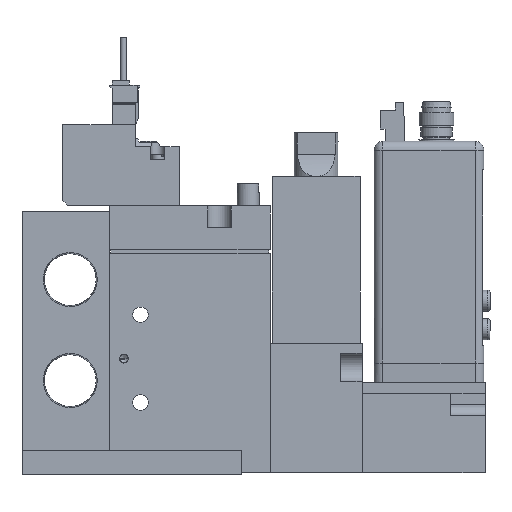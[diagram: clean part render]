
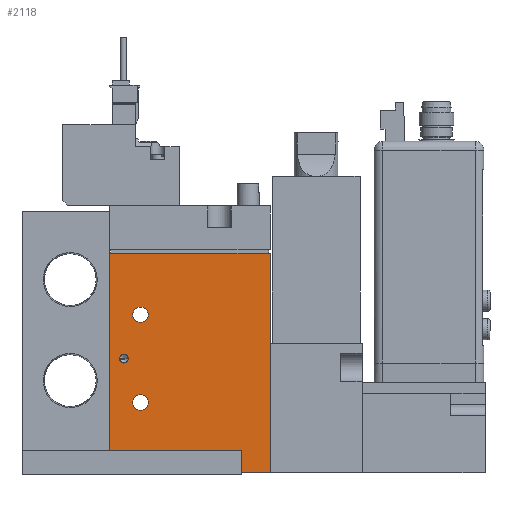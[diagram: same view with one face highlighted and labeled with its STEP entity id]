
A CAD part, left-side view. The second image highlights one B-rep face of the part: STEP entity #2118.
In plain terms, the highlighted planar face has unit normal (-1, 0, 0) as drawn and (1, 0, 0) by its records, which use the part's own axes.
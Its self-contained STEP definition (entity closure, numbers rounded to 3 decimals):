
#2118=ADVANCED_FACE('',(#4236,#4237,#4238,#4239),#4240,.F.);
#4236=FACE_BOUND('',#7803,.T.);
#4237=FACE_BOUND('',#7804,.T.);
#4238=FACE_BOUND('',#7805,.T.);
#4239=FACE_OUTER_BOUND('',#7806,.T.);
#4240=PLANE('',#7807);
#7803=EDGE_LOOP('',(#13855));
#7804=EDGE_LOOP('',(#13856));
#7805=EDGE_LOOP('',(#13857));
#7806=EDGE_LOOP('',(#13858,#13859,#13860,#13861));
#7807=AXIS2_PLACEMENT_3D('',#13862,#13863,#13864);
#13855=ORIENTED_EDGE('',*,*,#23607,.F.);
#13856=ORIENTED_EDGE('',*,*,#23608,.T.);
#13857=ORIENTED_EDGE('',*,*,#23609,.T.);
#13858=ORIENTED_EDGE('',*,*,#23610,.T.);
#13859=ORIENTED_EDGE('',*,*,#23611,.F.);
#13860=ORIENTED_EDGE('',*,*,#23612,.F.);
#13861=ORIENTED_EDGE('',*,*,#23613,.T.);
#13862=CARTESIAN_POINT('',(8.5,-19.444,50.0));
#13863=DIRECTION('',(-1.0,0.0,0.0));
#13864=DIRECTION('',(0.0,0.0,1.0));
#23607=EDGE_CURVE('',#28240,#28240,#28241,.T.);
#23608=EDGE_CURVE('',#28242,#28242,#28243,.T.);
#23609=EDGE_CURVE('',#28244,#28244,#28245,.T.);
#23610=EDGE_CURVE('',#28246,#28247,#28248,.T.);
#23611=EDGE_CURVE('',#28249,#28247,#28250,.T.);
#23612=EDGE_CURVE('',#28251,#28249,#28252,.T.);
#23613=EDGE_CURVE('',#28251,#28246,#28253,.T.);
#28240=VERTEX_POINT('',#35586);
#28241=CIRCLE('',#35587,1.0);
#28242=VERTEX_POINT('',#35588);
#28243=CIRCLE('',#35589,1.75);
#28244=VERTEX_POINT('',#35590);
#28245=CIRCLE('',#35591,1.75);
#28246=VERTEX_POINT('',#35592);
#28247=VERTEX_POINT('',#35593);
#28248=LINE('',#35594,#35595);
#28249=VERTEX_POINT('',#35596);
#28250=LINE('',#35597,#35598);
#28251=VERTEX_POINT('',#35599);
#28252=LINE('',#35600,#35601);
#28253=LINE('',#35602,#35603);
#35586=CARTESIAN_POINT('',(8.5,-17.244,26.0));
#35587=AXIS2_PLACEMENT_3D('',#43863,#43864,#43865);
#35588=CARTESIAN_POINT('',(8.5,-10.694,36.0));
#35589=AXIS2_PLACEMENT_3D('',#43866,#43867,#43868);
#35590=CARTESIAN_POINT('',(8.5,-10.694,16.0));
#35591=AXIS2_PLACEMENT_3D('',#43869,#43870,#43871);
#35592=CARTESIAN_POINT('',(8.5,-19.444,0.0));
#35593=CARTESIAN_POINT('',(8.5,17.056,0.0));
#35594=CARTESIAN_POINT('',(8.5,-19.444,0.0));
#35595=VECTOR('',#43872,1.0);
#35596=CARTESIAN_POINT('',(8.5,17.056,50.0));
#35597=CARTESIAN_POINT('',(8.5,17.056,50.0));
#35598=VECTOR('',#43873,1.0);
#35599=CARTESIAN_POINT('',(8.5,-19.444,50.0));
#35600=CARTESIAN_POINT('',(8.5,-19.444,50.0));
#35601=VECTOR('',#43874,1.0);
#35602=CARTESIAN_POINT('',(8.5,-19.444,50.0));
#35603=VECTOR('',#43875,1.0);
#43863=CARTESIAN_POINT('',(8.5,-16.244,26.0));
#43864=DIRECTION('',(1.0,0.,0.0));
#43865=DIRECTION('',(0.,-1.0,0.0));
#43866=CARTESIAN_POINT('',(8.5,-12.444,36.0));
#43867=DIRECTION('',(-1.0,0.0,0.0));
#43868=DIRECTION('',(0.0,1.0,0.0));
#43869=CARTESIAN_POINT('',(8.5,-12.444,16.0));
#43870=DIRECTION('',(-1.0,0.0,0.0));
#43871=DIRECTION('',(0.0,1.0,0.0));
#43872=DIRECTION('',(0.0,1.0,0.0));
#43873=DIRECTION('',(0.0,0.0,-1.0));
#43874=DIRECTION('',(0.0,1.0,0.0));
#43875=DIRECTION('',(0.0,0.0,-1.0));
